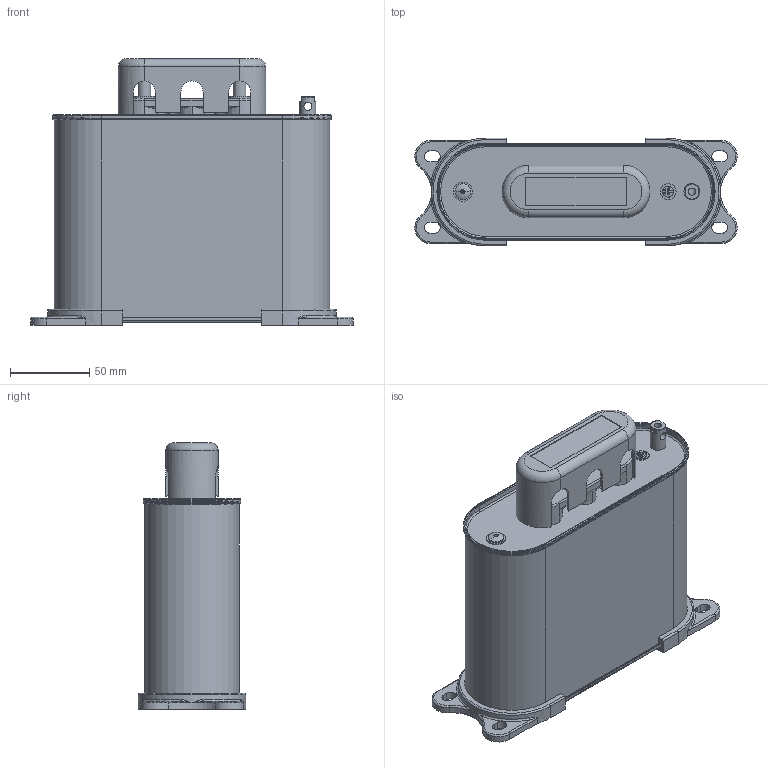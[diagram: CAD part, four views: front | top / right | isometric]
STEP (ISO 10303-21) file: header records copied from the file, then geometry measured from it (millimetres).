
FILE_DESCRIPTION((''),'2;1');
FILE_NAME('2701001500_SW0001','2025-05-06T',('hua.zhang'),(''),'PRO/ENGINEER BY PARAMETRIC TECHNOLOGY CORPORATION, 2017170','PRO/ENGINEER BY PARAMETRIC TECHNOLOGY CORPORATION, 2017170','');
FILE_SCHEMA(('CONFIG_CONTROL_DESIGN'));
Length unit declared in the file: millimetre
Products named in the file (1): 2701001500_SW0001
Bounding box: 203 x 68 x 167.84 mm (x, y, z)
Volume: 1276073.9 mm3; surface area: 118669.8 mm2
Topology: 1 solids, 5 shells, 493 faces, 1274 edges, 792 vertices
Faces by surface type: plane 221, cylinder 182, torus 62, cone 10, bspline 8, extrusion 8, sphere 2
Entity records: 17206 total; most frequent: CARTESIAN_POINT 4843, DIRECTION 2654, ORIENTED_EDGE 2548, EDGE_CURVE 1274, AXIS2_PLACEMENT_3D 953, VERTEX_POINT 792, VECTOR 748, LINE 740
